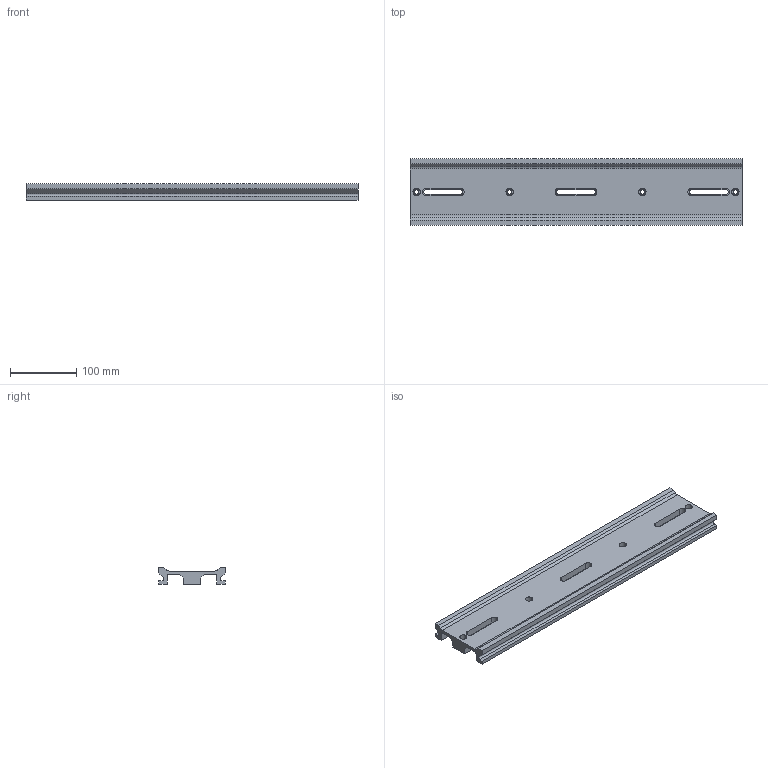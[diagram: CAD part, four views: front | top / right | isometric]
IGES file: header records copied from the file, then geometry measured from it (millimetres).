
Global section: file name: No Iges File Name specified; native system: AutoDesk Inventor R11.0; preprocessor: AutoDesk Inventor Iges Exporter R11.0; author: No Author specified; organization: No Organization specified; date: 20070420.153324; units: millimetre
Bounding box: 500 x 100 x 25 mm (x, y, z)
Volume: 608010.8 mm3; surface area: 171500.7 mm2
Topology: 1 solids, 1 shells, 79 faces, 210 edges, 140 vertices
Faces by surface type: plane 41, bspline 20, revolution 18
